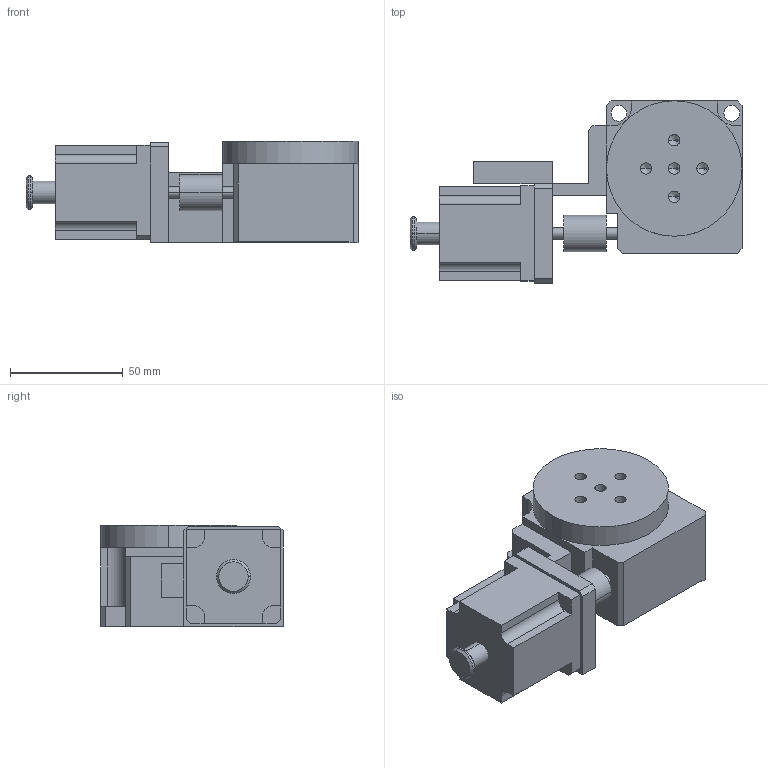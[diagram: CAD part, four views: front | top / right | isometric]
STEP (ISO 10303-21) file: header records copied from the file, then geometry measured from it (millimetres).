
FILE_DESCRIPTION (( 'STEP AP214' ), '1' );
FILE_NAME ('PX110-60.STEP', '2022-09-17T09:14:00', ( '' ), ( '' ), 'SwSTEP 2.0', 'SolidWorks 2017', '' );
FILE_SCHEMA (( 'AUTOMOTIVE_DESIGN' ));
Length unit declared in the file: millimetre
Products named in the file (1): PX110-60
Bounding box: 147 x 80.75 x 45 mm (x, y, z)
Volume: 258003.7 mm3; surface area: 38879.2 mm2
Topology: 1 solids, 1 shells, 317 faces, 858 edges, 554 vertices
Faces by surface type: plane 168, bspline 81, cylinder 46, cone 22
Entity records: 12887 total; most frequent: CARTESIAN_POINT 5419, ORIENTED_EDGE 1680, DIRECTION 1255, EDGE_CURVE 840, VECTOR 575, LINE 575, VERTEX_POINT 554, EDGE_LOOP 356
